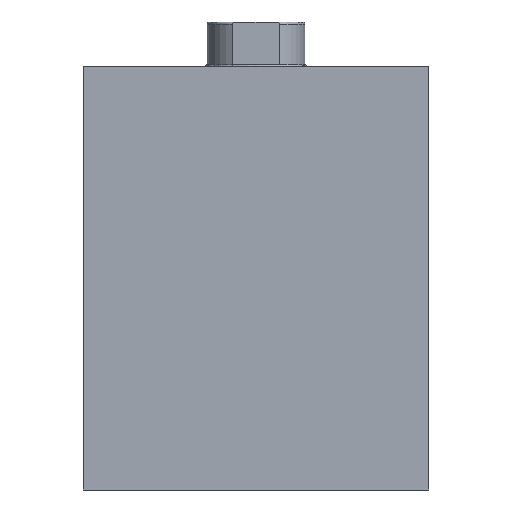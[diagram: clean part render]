
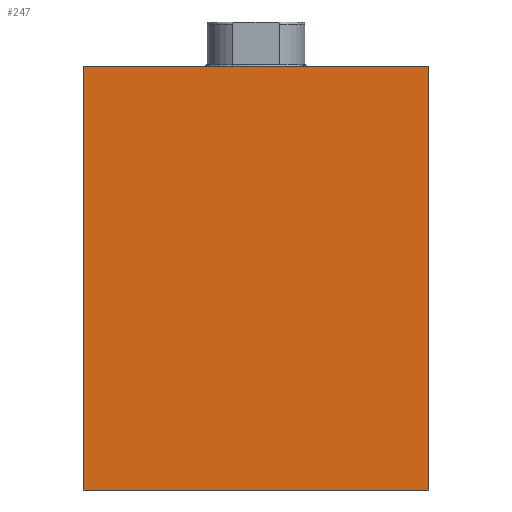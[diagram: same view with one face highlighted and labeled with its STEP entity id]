
A CAD part, left-side view. The second image highlights one B-rep face of the part: STEP entity #247.
In plain terms, the highlighted planar face has unit normal (-1, 0, 0) as drawn and (0, 0, -1) by its records, which use the part's own axes.
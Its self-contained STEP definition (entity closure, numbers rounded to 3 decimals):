
#247 = ADVANCED_FACE( '', ( #328 ), #329, .F. );
#328 = FACE_OUTER_BOUND( '', #524, .T. );
#329 = PLANE( '', #525 );
#524 = EDGE_LOOP( '', ( #739, #740, #741, #742 ) );
#525 = AXIS2_PLACEMENT_3D( '', #743, #744, #745 );
#739 = ORIENTED_EDGE( '', *, *, #1081, .T. );
#740 = ORIENTED_EDGE( '', *, *, #1097, .F. );
#741 = ORIENTED_EDGE( '', *, *, #1092, .F. );
#742 = ORIENTED_EDGE( '', *, *, #1096, .T. );
#743 = CARTESIAN_POINT( '', ( 104., -42.5, -31.5 ) );
#744 = DIRECTION( '', ( 0., 0., 1. ) );
#745 = DIRECTION( '', ( 1., 0., 0. ) );
#1081 = EDGE_CURVE( '', #1175, #1173, #1176, .T. );
#1092 = EDGE_CURVE( '', #1193, #1195, #1196, .T. );
#1096 = EDGE_CURVE( '', #1193, #1175, #1202, .T. );
#1097 = EDGE_CURVE( '', #1195, #1173, #1203, .T. );
#1173 = VERTEX_POINT( '', #1406 );
#1175 = VERTEX_POINT( '', #1409 );
#1176 = LINE( '', #1410, #1411 );
#1193 = VERTEX_POINT( '', #1600 );
#1195 = VERTEX_POINT( '', #1603 );
#1196 = LINE( '', #1604, #1605 );
#1202 = B_SPLINE_CURVE_WITH_KNOTS( '', 1, ( #1678, #1679 ), .UNSPECIFIED., .F., .F., ( 2, 2 ), ( 0., 1. ), .UNSPECIFIED. );
#1203 = B_SPLINE_CURVE_WITH_KNOTS( '', 1, ( #1680, #1681 ), .UNSPECIFIED., .F., .F., ( 2, 2 ), ( 0., 1. ), .UNSPECIFIED. );
#1406 = CARTESIAN_POINT( '', ( 0., 42.5, -31.5 ) );
#1409 = CARTESIAN_POINT( '', ( 0., -42.5, -31.5 ) );
#1410 = CARTESIAN_POINT( '', ( 0., -42.5, -31.5 ) );
#1411 = VECTOR( '', #3779, 1000. );
#1600 = CARTESIAN_POINT( '', ( 104., -42.5, -31.5 ) );
#1603 = CARTESIAN_POINT( '', ( 104., 42.5, -31.5 ) );
#1604 = CARTESIAN_POINT( '', ( 104., -42.5, -31.5 ) );
#1605 = VECTOR( '', #3783, 1000. );
#1678 = CARTESIAN_POINT( '', ( 104., -42.5, -31.5 ) );
#1679 = CARTESIAN_POINT( '', ( 0., -42.5, -31.5 ) );
#1680 = CARTESIAN_POINT( '', ( 104., 42.5, -31.5 ) );
#1681 = CARTESIAN_POINT( '', ( 0., 42.5, -31.5 ) );
#3779 = DIRECTION( '', ( 0., 1., 0. ) );
#3783 = DIRECTION( '', ( 0., 1., 0. ) );
